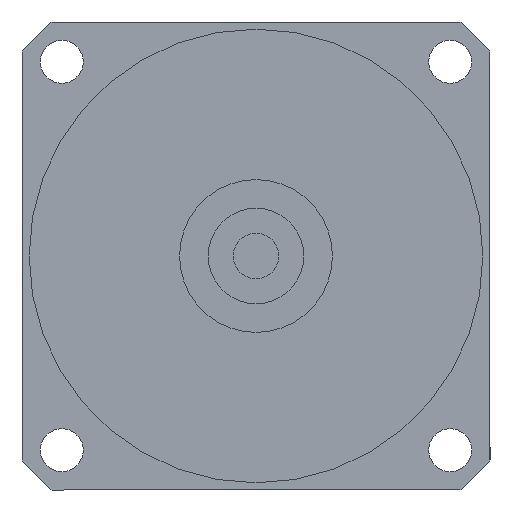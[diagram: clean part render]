
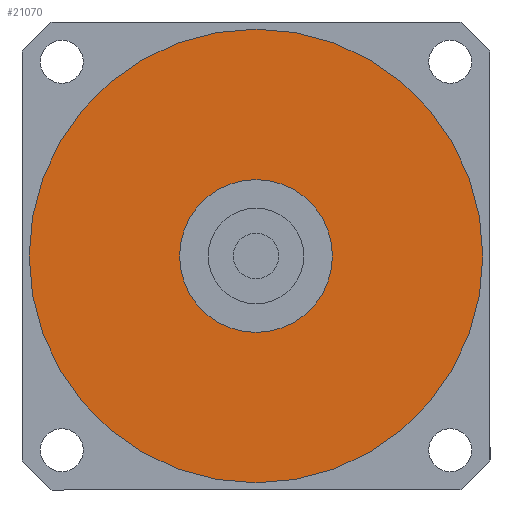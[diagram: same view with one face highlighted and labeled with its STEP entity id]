
A CAD part, left-side view. The second image highlights one B-rep face of the part: STEP entity #21070.
In plain terms, the highlighted planar face has unit normal (-1, 0, 0) as drawn and (0, 0, -1) by its records, which use the part's own axes.
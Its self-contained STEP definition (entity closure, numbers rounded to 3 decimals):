
#20590=CARTESIAN_POINT('',(47.5,0.,-88.5));
#20600=VERTEX_POINT('',#20590);
#20680=CARTESIAN_POINT('',(-47.5,0.,-88.5));
#20690=VERTEX_POINT('',#20680);
#20720=CARTESIAN_POINT('',(0.,0.,
-88.5));
#20730=DIRECTION('',(0.,0.,1.));
#20740=DIRECTION('',(0.,-1.,0.));
#20750=AXIS2_PLACEMENT_3D('',#20720,#20730,#20740);
#20760=CIRCLE('',#20750,47.5);
#20770=EDGE_CURVE('',#20600,#20690,#20760,.T.);
#20820=CARTESIAN_POINT('',(0.,0.,
-88.5));
#20830=DIRECTION('',(0.,0.,1.));
#20840=DIRECTION('',(-1.,0.,0.));
#20850=AXIS2_PLACEMENT_3D('',#20820,#20830,#20840);
#20860=PLANE('',#20850);
#20870=EDGE_CURVE('',#20690,#20600,#20760,.T.);
#20880=ORIENTED_EDGE('',*,*,#20870,.F.);
#20890=ORIENTED_EDGE('',*,*,#20770,.F.);
#20900=EDGE_LOOP('',(#20890,#20880));
#20910=FACE_OUTER_BOUND('',#20900,.T.);
#20920=CARTESIAN_POINT('',(0.,0.,
-88.5));
#20930=DIRECTION('',(0.,0.,1.));
#20940=DIRECTION('',(0.,-1.,0.));
#20950=AXIS2_PLACEMENT_3D('',#20920,#20930,#20940);
#20960=CIRCLE('',#20950,16.);
#20970=CARTESIAN_POINT('',(16.,0.,-88.5));
#20980=VERTEX_POINT('',#20970);
#20990=CARTESIAN_POINT('',(-16.,0.,-88.5));
#21000=VERTEX_POINT('',#20990);
#21010=EDGE_CURVE('',#20980,#21000,#20960,.T.);
#21020=ORIENTED_EDGE('',*,*,#21010,.T.);
#21030=EDGE_CURVE('',#21000,#20980,#20960,.T.);
#21040=ORIENTED_EDGE('',*,*,#21030,.T.);
#21050=EDGE_LOOP('',(#21040,#21020));
#21060=FACE_BOUND('',#21050,.T.);
#21070=ADVANCED_FACE('',(#20910,#21060),#20860,.F.);
